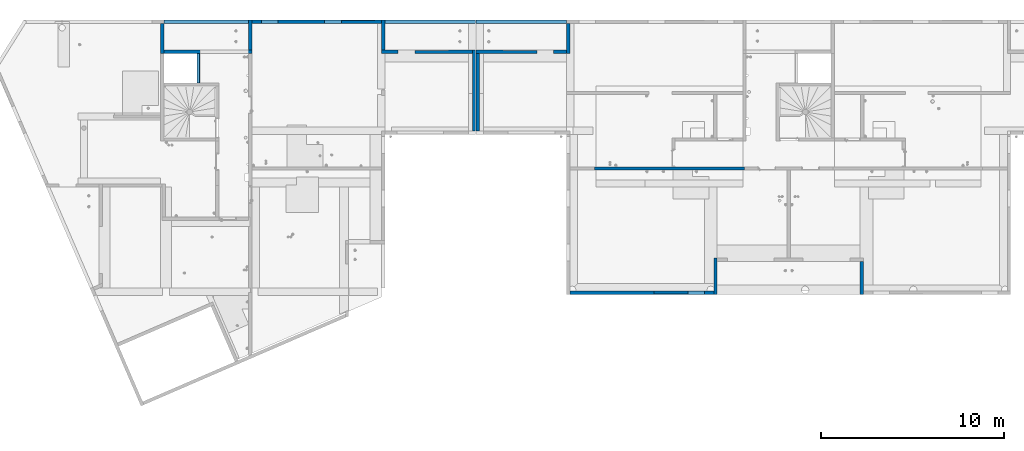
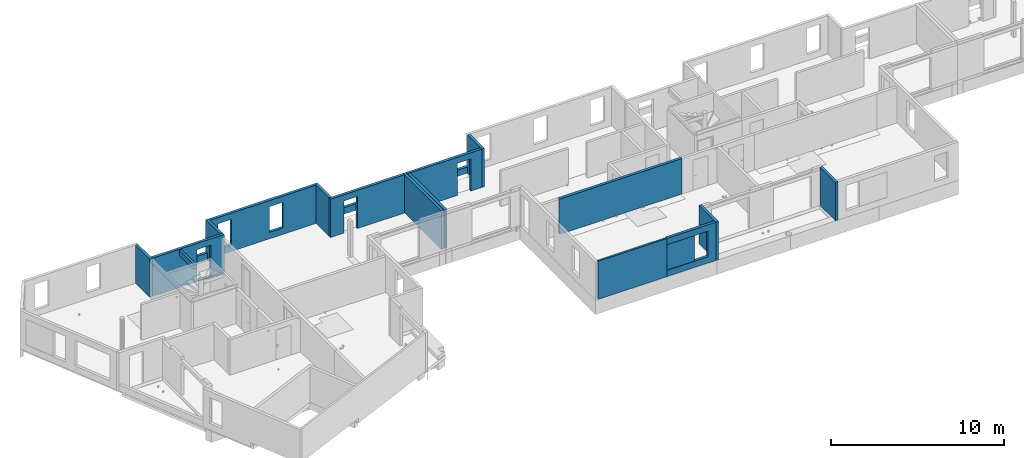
# One storey, part 7 of 34: 19 walls, 19 openings.
"""IFC2X3 building model written with IfcOpenShell, lengths in centimetres."""

from ifc_helpers import new_model, entity, si_unit, converted_unit, derived_unit, direction, frame, frame_2d, origin, origin_2d_with_axis, place, context, subcontext, project, spatial, polyline, rectangle, extrude, clip, bounded_halfspace, material, layer, layer_set, layer_usage, type_object, element, save


model = new_model("IFC2X3")

# Units and contexts
model_context = context("Model", 3, precision=0.001, world=origin(), true_north=direction((6.12303176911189e-17, 1.0)))
body_context = subcontext(model_context, "Body", "Model", "MODEL_VIEW")
ifc_project = project(units=[si_unit("LENGTHUNIT", "METRE", prefix="CENTI"), si_unit("AREAUNIT", "SQUARE_METRE"), si_unit("VOLUMEUNIT", "CUBIC_METRE"), converted_unit("PLANEANGLEUNIT", "DEGREE", entity("IfcRatioMeasure", 0.0174532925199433), si_unit("PLANEANGLEUNIT", "RADIAN"), dimensions=[0, 0, 0, 0, 0, 0, 0]), si_unit("MASSUNIT", "GRAM", prefix="KILO"), derived_unit("MASSDENSITYUNIT", [(si_unit("MASSUNIT", "GRAM", prefix="KILO"), 1), (si_unit("LENGTHUNIT", "METRE"), -3)]), si_unit("TIMEUNIT", "SECOND"), si_unit("FREQUENCYUNIT", "HERTZ"), si_unit("THERMODYNAMICTEMPERATUREUNIT", "DEGREE_CELSIUS"), derived_unit("THERMALTRANSMITTANCEUNIT", [(si_unit("MASSUNIT", "GRAM", prefix="KILO"), 1), (si_unit("THERMODYNAMICTEMPERATUREUNIT", "KELVIN"), -1), (si_unit("TIMEUNIT", "SECOND"), -3)]), derived_unit("VOLUMETRICFLOWRATEUNIT", [(si_unit("LENGTHUNIT", "METRE"), 3), (si_unit("TIMEUNIT", "SECOND"), -1)]), si_unit("ELECTRICCURRENTUNIT", "AMPERE"), si_unit("ELECTRICVOLTAGEUNIT", "VOLT"), si_unit("POWERUNIT", "WATT"), si_unit("FORCEUNIT", "NEWTON"), si_unit("ILLUMINANCEUNIT", "LUX"), si_unit("LUMINOUSFLUXUNIT", "LUMEN"), si_unit("LUMINOUSINTENSITYUNIT", "CANDELA"), derived_unit("USERDEFINED", [(si_unit("MASSUNIT", "GRAM", prefix="KILO"), -1), (si_unit("LENGTHUNIT", "METRE"), -2), (si_unit("TIMEUNIT", "SECOND"), 3), (si_unit("LUMINOUSFLUXUNIT", "LUMEN"), 1)]), derived_unit("LINEARVELOCITYUNIT", [(si_unit("LENGTHUNIT", "METRE"), 1), (si_unit("TIMEUNIT", "SECOND"), -1)]), si_unit("PRESSUREUNIT", "PASCAL"), derived_unit("USERDEFINED", [(si_unit("LENGTHUNIT", "METRE"), -2), (si_unit("MASSUNIT", "GRAM", prefix="KILO"), 1), (si_unit("TIMEUNIT", "SECOND"), -2)])], contexts=[model_context])

# Site, building, storey
site_placement = place(None, origin())
site = spatial("IfcSite", under=ifc_project, at=site_placement, Name="Default", CompositionType="ELEMENT")
building_placement = place(site_placement, origin())
building = spatial("IfcBuilding", under=site, at=building_placement, Name="CAGE 03", CompositionType="ELEMENT")
storey_placement = place(building_placement, frame((0.0, 0.0, 340.0)))
storey = spatial("IfcBuildingStorey", under=building, at=storey_placement, Name="R+1", CompositionType="ELEMENT", Elevation=340.0)

# Wall, opening
ifc_material_1 = material(Name="Béton, C25/30")
ifc_layer_1 = layer(ifc_material_1, 18.0)
ifc_layer_set_1 = layer_set([ifc_layer_1], Name="Mur de base:Voile BA 18")
ifc_layer_usage_1 = layer_usage(ifc_layer_set_1, "AXIS2", "NEGATIVE", 9.0)
wall_type_1 = type_object("IfcWallType", Name="Mur de base:Voile BA 18", PredefinedType="STANDARD", material=ifc_layer_set_1)
wall_1_placement = place(storey_placement, frame((5375.36582014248, 5284.66066607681, 0.0)))
wall_1 = element("IfcWallStandardCase", 1, at=wall_1_placement, inside=storey, type_object=wall_type_1, material=ifc_layer_usage_1, Name="Mur de base:Voile BA 18", ObjectType="Mur de base:Voile BA 18", context=body_context, shape_type="SweptSolid", body=[
    extrude(rectangle(XDim=494.999999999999, YDim=17.9999999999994, at=frame_2d((247.5, -1.86517468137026e-14), x_axis=(-1.0, 0.0))), origin(), (0.0, 0.0, 1.0), 45.0),
])
opening_1_placement = place(wall_1_placement, origin())
element("IfcOpeningElement", 2, at=opening_1_placement, cuts=wall_1, Name="Mur de base:Voile BA 18", ObjectType="Recess", context=body_context, shape_type="SweptSolid", body=[
    extrude(rectangle(XDim=181.0, YDim=218.0, at=frame_2d((0.0, -4.33431068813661e-13), x_axis=(1.0, 0.0))), frame((1139.0, 7.0, 135.5), z_axis=(0.0, 1.0, 0.0), x_axis=(0.0, 0.0, -1.0)), (0.0, 0.0, 1.0), 1.99999999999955),
])

# Wall
ifc_layer_usage_2 = layer_usage(ifc_layer_set_1, "AXIS2", "NEGATIVE", 9.0)
wall_2_placement = place(storey_placement, frame((3663.36582014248, 5275.66066607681, 0.0), z_axis=(0.0, 0.0, 1.0), x_axis=(0.0, -1.0, 0.0)))
element("IfcWallStandardCase", 3, at=wall_2_placement, inside=storey, type_object=wall_type_1, material=ifc_layer_usage_2, Name="Mur de base:Voile BA 18", ObjectType="Mur de base:Voile BA 18", context=body_context, shape_type="SweptSolid", body=[
    extrude(rectangle(XDim=165.0, YDim=18.0000000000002, at=frame_2d((82.4999999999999, 7.54951656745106e-14), x_axis=(-1.0, 0.0))), origin(), (0.0, 0.0, 1.0), 270.0),
])

# Wall, openings
ifc_layer_usage_3 = layer_usage(ifc_layer_set_1, "AXIS2", "NEGATIVE", 9.0)
wall_3_placement = place(storey_placement, frame((3672.36582014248, 5119.66066607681, 0.0)))
wall_3 = element("IfcWallStandardCase", 4, at=wall_3_placement, inside=storey, type_object=wall_type_1, material=ifc_layer_usage_3, Name="Mur de base:Voile BA 18", ObjectType="Mur de base:Voile BA 18", context=body_context, shape_type="SweptSolid", body=[
    extrude(rectangle(XDim=479.999999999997, YDim=17.9999999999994, at=frame_2d((239.999999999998, 1.87405646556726e-13), x_axis=(-1.0, 0.0))), origin(), (0.0, 0.0, 1.0), 270.0),
])
opening_2_placement = place(wall_3_placement, origin())
element("IfcOpeningElement", 5, at=opening_2_placement, cuts=wall_3, Name="Mur de base:Voile BA 18", ObjectType="Opening", context=body_context, shape_type="SweptSolid", body=[
    extrude(rectangle(XDim=227.0, YDim=17.9999999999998, at=frame_2d((2.16715534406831e-13, -4.9737991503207e-14), x_axis=(0.0, 1.0))), frame((189.0, -169.0, 113.5), z_axis=(0.0, 1.0, 0.0), x_axis=(1.0, 0.0, 0.0)), (0.0, 0.0, 1.0), 160.0),
])
opening_3_placement = place(wall_3_placement, frame((-3672.36582014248, -5119.66066607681, 0.0)))
element("IfcOpeningElement", 6, at=opening_3_placement, cuts=wall_3, Name="Mur de base:Voile BA 18", ObjectType="Opening", context=body_context, shape_type="SweptSolid", body=[
    extrude(rectangle(XDim=221.0, YDim=95.0000000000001, at=frame_2d((0.0, -4.33431068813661e-13), x_axis=(1.0, 0.0))), frame((4016.86582014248, 4958.26066607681, 115.5), z_axis=(0.0, 1.0, 0.0), x_axis=(0.0, 0.0, 1.0)), (0.0, 0.0, 1.0), 304.8),
])

# Walls
ifc_layer_usage_4 = layer_usage(ifc_layer_set_1, "AXIS2", "POSITIVE", -9.0)
wall_4_placement = place(storey_placement, frame((4143.36582014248, 5293.66066607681, 0.0), z_axis=(0.0, 0.0, 1.0), x_axis=(0.0, -1.0, 0.0)))
element("IfcWallStandardCase", 7, at=wall_4_placement, inside=storey, type_object=wall_type_1, material=ifc_layer_usage_4, Name="Mur de base:Voile BA 18", ObjectType="Mur de base:Voile BA 18", context=body_context, shape_type="SweptSolid", body=[
    extrude(rectangle(XDim=165.000000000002, YDim=17.9999999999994, at=frame_2d((82.5000000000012, -9.76996261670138e-15), x_axis=(-1.0, 0.0))), origin(), (0.0, 0.0, 1.0), 270.0),
])
ifc_layer_usage_5 = layer_usage(ifc_layer_set_1, "AXIS2", "POSITIVE", -9.0)
wall_5_placement = place(storey_placement, frame((6682.36582014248, 3796.6606660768, 0.0), z_axis=(0.0, 0.0, 1.0), x_axis=(0.0, 1.0, 0.0)))
element("IfcWallStandardCase", 8, at=wall_5_placement, inside=storey, type_object=wall_type_1, material=ifc_layer_usage_5, Name="Mur de base:Voile BA 18", ObjectType="Mur de base:Voile BA 18", context=body_context, shape_type="SweptSolid", body=[
    extrude(rectangle(XDim=197.999999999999, YDim=17.9999999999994, at=frame_2d((98.9999999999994, -1.57207580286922e-13), x_axis=(-1.0, 0.0))), origin(), (0.0, 0.0, 1.0), 270.0),
])
ifc_layer_usage_6 = layer_usage(ifc_layer_set_1, "AXIS2", "POSITIVE", -9.0)
wall_6_placement = place(storey_placement, frame((7480.36582014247, 3976.6606660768, 0.0), z_axis=(0.0, 0.0, 1.0), x_axis=(0.0, -1.0, 0.0)))
element("IfcWallStandardCase", 9, at=wall_6_placement, inside=storey, type_object=wall_type_1, material=ifc_layer_usage_6, Name="Mur de base:Voile BA 18", ObjectType="Mur de base:Voile BA 18", context=body_context, shape_type="SweptSolid", body=[
    extrude(rectangle(XDim=179.999999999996, YDim=17.9999999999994, at=frame_2d((89.9999999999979, -7.19424519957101e-14), x_axis=(-1.0, 0.0))), origin(), (0.0, 0.0, 1.0), 270.0),
])
ifc_layer_usage_7 = layer_usage(ifc_layer_set_1, "AXIS2", "POSITIVE", -9.0)
wall_7_placement = place(storey_placement, frame((5879.36582014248, 5275.6606660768, 0.0), z_axis=(0.0, 0.0, 1.0), x_axis=(0.0, -1.0, 0.0)))
element("IfcWallStandardCase", 10, at=wall_7_placement, inside=storey, type_object=wall_type_1, material=ifc_layer_usage_7, Name="Mur de base:Voile BA 18", ObjectType="Mur de base:Voile BA 18", context=body_context, shape_type="SweptSolid", body=[
    extrude(rectangle(XDim=164.999999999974, YDim=17.9999999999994, at=frame_2d((82.4999999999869, -1.08357767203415e-13), x_axis=(-1.0, 0.0))), origin(), (0.0, 0.0, 1.0), 270.0),
])

# Wall, openings
ifc_layer_usage_8 = layer_usage(ifc_layer_set_1, "AXIS2", "POSITIVE", -9.0)
wall_8_placement = place(storey_placement, frame((5870.36582014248, 5119.66066607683, 0.0), z_axis=(0.0, 0.0, 1.0), x_axis=(-1.0, 0.0, 0.0)))
wall_8 = element("IfcWallStandardCase", 11, at=wall_8_placement, inside=storey, type_object=wall_type_1, material=ifc_layer_usage_8, Name="Mur de base:Voile BA 18", ObjectType="Mur de base:Voile BA 18", context=body_context, shape_type="SweptSolid", body=[
    extrude(rectangle(XDim=494.999999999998, YDim=17.9999999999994, at=frame_2d((247.499999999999, -7.01660951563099e-14), x_axis=(-1.0, 0.0))), origin(), (0.0, 0.0, 1.0), 270.0),
])
opening_4_placement = place(wall_8_placement, origin())
element("IfcOpeningElement", 12, at=opening_4_placement, cuts=wall_8, Name="Mur de base:Voile BA 18", ObjectType="Recess", context=body_context, shape_type="SweptSolid", body=[
    extrude(rectangle(XDim=226.0, YDim=184.0, at=frame_2d((0.0, -4.9737991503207e-14), x_axis=(0.0, 1.0))), frame((255.0, -9.0, 113.0), z_axis=(0.0, 1.0, 0.0), x_axis=(1.0, 0.0, 0.0)), (0.0, 0.0, 1.0), 1.99999999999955),
])
opening_5_placement = place(wall_8_placement, frame((5870.36582014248, 5119.66066607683, 0.0), z_axis=(0.0, 0.0, 1.0), x_axis=(-1.0, 0.0, 0.0)))
element("IfcOpeningElement", 13, at=opening_5_placement, cuts=wall_8, Name="Mur de base:Voile BA 18", ObjectType="Opening", context=body_context, shape_type="SweptSolid", body=[
    extrude(rectangle(XDim=226.0, YDim=91.0000000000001, at=frame_2d((0.0, 0.0), x_axis=(0.0, 1.0))), frame((5752.86582014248, 5263.06066607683, 113.0), z_axis=(0.0, -1.0, 0.0), x_axis=(1.0, 0.0, 0.0)), (0.0, 0.0, 1.0), 304.8),
])

# Wall
ifc_layer_usage_9 = layer_usage(ifc_layer_set_1, "AXIS2", "POSITIVE", -9.0)
wall_9_placement = place(storey_placement, frame((4869.36582014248, 5128.66066607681, 0.0), z_axis=(0.0, 0.0, 1.0), x_axis=(0.0, 1.0, 0.0)))
element("IfcWallStandardCase", 14, at=wall_9_placement, inside=storey, type_object=wall_type_1, material=ifc_layer_usage_9, Name="Mur de base:Voile BA 18", ObjectType="Mur de base:Voile BA 18", context=body_context, shape_type="SweptSolid", body=[
    extrude(rectangle(XDim=165.000000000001, YDim=17.9999999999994, at=frame_2d((82.5000000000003, -1.07469588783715e-13), x_axis=(-1.0, 0.0))), origin(), (0.0, 0.0, 1.0), 270.0),
])

# Wall, openings
ifc_layer_usage_10 = layer_usage(ifc_layer_set_1, "AXIS2", "POSITIVE", -9.0)
wall_10_placement = place(storey_placement, frame((4860.36582014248, 5284.66066607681, 0.0), z_axis=(0.0, 0.0, 1.0), x_axis=(-1.0, 0.0, 0.0)))
wall_10 = element("IfcWallStandardCase", 15, at=wall_10_placement, inside=storey, type_object=wall_type_1, material=ifc_layer_usage_10, Name="Mur de base:Voile BA 18", ObjectType="Mur de base:Voile BA 18", context=body_context, shape_type="SweptSolid", body=[
    extrude(rectangle(XDim=708.000000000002, YDim=17.9999999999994, at=frame_2d((354.000000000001, -2.43360886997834e-13), x_axis=(-1.0, 0.0))), origin(), (0.0, 0.0, 1.0), 270.0),
])
opening_6_placement = place(wall_10_placement, origin())
element("IfcOpeningElement", 16, at=opening_6_placement, cuts=wall_10, Name="Mur de base:Voile BA 18", ObjectType="Recess", context=body_context, shape_type="SweptSolid", body=[
    extrude(rectangle(XDim=181.0, YDim=184.0, at=frame_2d((0.0, 5.6843418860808e-14), x_axis=(0.0, 1.0))), frame((128.0, -9.0, 135.499999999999), z_axis=(0.0, 1.0, 0.0), x_axis=(1.0, 0.0, 0.0)), (0.0, 0.0, 1.0), 1.99999999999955),
])
opening_7_placement = place(wall_10_placement, frame((4860.36582014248, 5284.66066607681, 0.0), z_axis=(0.0, 0.0, 1.0), x_axis=(-1.0, 0.0, 0.0)))
element("IfcOpeningElement", 17, at=opening_7_placement, cuts=wall_10, Name="Mur de base:Voile BA 18", ObjectType="Opening", context=body_context, shape_type="SweptSolid", body=[
    extrude(rectangle(XDim=181.0, YDim=91.0000000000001, at=frame_2d((0.0, 0.0), x_axis=(0.0, 1.0))), frame((4594.86582014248, 5428.06066607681, 135.5), z_axis=(0.0, -1.0, 0.0), x_axis=(1.0, 0.0, 0.0)), (0.0, 0.0, 1.0), 304.8),
])
opening_8_placement = place(wall_10_placement, frame((4860.36582014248, 5284.66066607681, 0.0), z_axis=(0.0, 0.0, 1.0), x_axis=(-1.0, 0.0, 0.0)))
element("IfcOpeningElement", 18, at=opening_8_placement, cuts=wall_10, Name="Mur de base:Voile BA 18", ObjectType="Opening", context=body_context, shape_type="SweptSolid", body=[
    extrude(rectangle(XDim=181.0, YDim=91.0000000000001, at=frame_2d((0.0, 0.0), x_axis=(0.0, 1.0))), frame((4249.86582014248, 5428.06066607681, 135.5), z_axis=(0.0, -1.0, 0.0), x_axis=(1.0, 0.0, 0.0)), (0.0, 0.0, 1.0), 304.8),
])

# Walls
ifc_layer_usage_11 = layer_usage(ifc_layer_set_1, "AXIS2", "NEGATIVE", 9.0)
wall_11_placement = place(storey_placement, frame((5364.36582014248, 5128.66066607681, 0.0), z_axis=(0.0, 0.0, 1.0), x_axis=(0.0, -1.0, 0.0)))
element("IfcWallStandardCase", 19, at=wall_11_placement, inside=storey, type_object=wall_type_1, material=ifc_layer_usage_11, Name="Mur de base:Voile BA 18", ObjectType="Mur de base:Voile BA 18", context=body_context, shape_type="SweptSolid", body=[
    extrude(rectangle(XDim=442.000000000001, YDim=17.9999999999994, at=frame_2d((221.0, -9.41469124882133e-14), x_axis=(-1.0, 0.0))), origin(), (0.0, 0.0, 1.0), 270.0),
])
ifc_layer_usage_12 = layer_usage(ifc_layer_set_1, "AXIS2", "NEGATIVE", 9.0)
wall_12_placement = place(storey_placement, frame((5384.36582014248, 4686.66066607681, 0.0), z_axis=(0.0, 0.0, 1.0), x_axis=(0.0, 1.0, 0.0)))
element("IfcWallStandardCase", 20, at=wall_12_placement, inside=storey, type_object=wall_type_1, material=ifc_layer_usage_12, Name="Mur de base:Voile BA 18", ObjectType="Mur de base:Voile BA 18", context=body_context, shape_type="SweptSolid", body=[
    extrude(rectangle(XDim=424.000000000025, YDim=17.9999999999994, at=frame_2d((212.000000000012, -1.07469588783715e-13), x_axis=(-1.0, 0.0))), origin(), (0.0, 0.0, 1.0), 270.0),
])

# Wall, opening
ifc_layer_usage_13 = layer_usage(ifc_layer_set_1, "AXIS2", "POSITIVE", -9.0)
wall_13_placement = place(storey_placement, frame((3861.36582014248, 5110.66066607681, 227.0), z_axis=(0.0, 0.0, 1.0), x_axis=(0.0, -1.0, 0.0)))
wall_13 = element("IfcWallStandardCase", 21, at=wall_13_placement, inside=storey, type_object=wall_type_1, material=ifc_layer_usage_13, Name="Mur de base:Voile BA 18", ObjectType="Mur de base:Voile BA 18", context=body_context, shape_type="Clipping", body=[
    clip(clip(extrude(rectangle(XDim=159.999999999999, YDim=18.0000000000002, at=frame_2d((79.9999999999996, -8.08242361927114e-14), x_axis=(-1.0, 0.0))), origin(), (0.0, 0.0, 1.0), 36.0), bounded_halfspace(frame((0.0, 6.0, 23.0), z_axis=(0.0, 0.0, -1.0), x_axis=(1.0, 0.0, 0.0)), True, frame((0.0, 6.0, 23.0), z_axis=(0.0, 0.0, -1.0), x_axis=(1.0, 0.0, 0.0)), polyline([(0.0, 0.0), (0.0, -3.0), (160.0, -3.0), (160.0, 0.0), (0.0, 0.0)]))), bounded_halfspace(frame((160.0, 6.0, 23.0), z_axis=(0.0, -1.0, 0.0), x_axis=(0.0, 0.0, 1.0)), True, frame((160.0, 6.0, 23.0), z_axis=(0.0, -1.0, 0.0), x_axis=(0.0, 0.0, 1.0)), polyline([(0.0, 0.0), (13.0, 0.0), (13.0, 160.0), (0.0, 160.0), (0.0, 0.0)]))),
])
opening_9_placement = place(wall_13_placement, frame((5110.66066607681, -3861.36582014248, -227.0), z_axis=(0.0, 0.0, 1.0), x_axis=(0.0, 1.0, 0.0)))
element("IfcOpeningElement", 22, at=opening_9_placement, cuts=wall_13, Name="Mur de base:Voile BA 18", ObjectType="Opening", context=body_context, shape_type="SweptSolid", body=[
    extrude(rectangle(XDim=227.0, YDim=160.0, at=frame_2d((0.0, 0.0), x_axis=(0.0, 1.0))), frame((3717.96582014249, 5030.66066607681, 113.5), z_axis=(1.0, 0.0, 0.0), x_axis=(0.0, 1.0, 0.0)), (0.0, 0.0, 1.0), 304.8),
])

# Wall, openings
ifc_layer_usage_14 = layer_usage(ifc_layer_set_1, "AXIS2", "POSITIVE", -9.0)
wall_14_placement = place(storey_placement, frame((5355.36582014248, 5119.66066607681, 0.0), z_axis=(0.0, 0.0, 1.0), x_axis=(-1.0, 0.0, 0.0)))
wall_14 = element("IfcWallStandardCase", 23, at=wall_14_placement, inside=storey, type_object=wall_type_1, material=ifc_layer_usage_14, Name="Mur de base:Voile BA 18", ObjectType="Mur de base:Voile BA 18", context=body_context, shape_type="SweptSolid", body=[
    extrude(rectangle(XDim=494.999999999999, YDim=17.9999999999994, at=frame_2d((247.5, -3.01980662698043e-14), x_axis=(-1.0, 0.0))), origin(), (0.0, 0.0, 1.0), 270.0),
])
opening_10_placement = place(wall_14_placement, origin())
element("IfcOpeningElement", 24, at=opening_10_placement, cuts=wall_14, Name="Mur de base:Voile BA 18", ObjectType="Recess", context=body_context, shape_type="SweptSolid", body=[
    extrude(rectangle(XDim=226.0, YDim=184.0, at=frame_2d((0.0, -4.9737991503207e-14), x_axis=(0.0, 1.0))), frame((222.0, -9.0, 113.0), z_axis=(0.0, 1.0, 0.0), x_axis=(1.0, 0.0, 0.0)), (0.0, 0.0, 1.0), 1.99999999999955),
])
opening_11_placement = place(wall_14_placement, frame((5355.36582014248, 5119.66066607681, 0.0), z_axis=(0.0, 0.0, 1.0), x_axis=(-1.0, 0.0, 0.0)))
element("IfcOpeningElement", 25, at=opening_11_placement, cuts=wall_14, Name="Mur de base:Voile BA 18", ObjectType="Opening", context=body_context, shape_type="SweptSolid", body=[
    extrude(rectangle(XDim=226.0, YDim=91.0000000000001, at=frame_2d((0.0, 0.0), x_axis=(0.0, 1.0))), frame((4995.86582014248, 5263.06066607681, 113.0), z_axis=(0.0, -1.0, 0.0), x_axis=(1.0, 0.0, 0.0)), (0.0, 0.0, 1.0), 304.8),
])

# Wall, opening
ifc_layer_usage_15 = layer_usage(ifc_layer_set_1, "AXIS2", "NEGATIVE", 9.0)
wall_15_placement = place(storey_placement, frame((4878.36582014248, 5284.66066607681, 0.0)))
wall_15 = element("IfcWallStandardCase", 26, at=wall_15_placement, inside=storey, type_object=wall_type_1, material=ifc_layer_usage_15, Name="Mur de base:Voile BA 18", ObjectType="Mur de base:Voile BA 18", context=body_context, shape_type="SweptSolid", body=[
    extrude(rectangle(XDim=494.999999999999, YDim=17.9999999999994, at=frame_2d((247.5, -1.95399252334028e-14), x_axis=(-1.0, 0.0))), origin(), (0.0, 0.0, 1.0), 45.0),
])
opening_12_placement = place(wall_15_placement, origin())
element("IfcOpeningElement", 27, at=opening_12_placement, cuts=wall_15, Name="Mur de base:Voile BA 18", ObjectType="Recess", context=body_context, shape_type="SweptSolid", body=[
    extrude(rectangle(XDim=181.0, YDim=184.0, at=origin_2d_with_axis()), frame((-146.0, 7.0, 135.499999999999), z_axis=(0.0, 1.0, 0.0), x_axis=(0.0, 0.0, -1.0)), (0.0, 0.0, 1.0), 1.99999999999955),
])

# Wall, openings
ifc_layer_usage_16 = layer_usage(ifc_layer_set_1, "AXIS2", "POSITIVE", -9.0)
wall_16_placement = place(storey_placement, frame((4134.36582014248, 5284.66066607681, 0.0), z_axis=(0.0, 0.0, 1.0), x_axis=(-1.0, 0.0, 0.0)))
wall_16 = element("IfcWallStandardCase", 28, at=wall_16_placement, inside=storey, type_object=wall_type_1, material=ifc_layer_usage_16, Name="Mur de base:Voile BA 18", ObjectType="Mur de base:Voile BA 18", context=body_context, shape_type="SweptSolid", body=[
    extrude(rectangle(XDim=461.999999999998, YDim=17.9999999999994, at=frame_2d((230.999999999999, -4.70734562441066e-14), x_axis=(-1.0, 0.0))), origin(), (0.0, 0.0, 1.0), 45.0),
])
opening_13_placement = place(wall_16_placement, origin())
element("IfcOpeningElement", 29, at=opening_13_placement, cuts=wall_16, Name="Mur de base:Voile BA 18", ObjectType="Recess", context=body_context, shape_type="SweptSolid", body=[
    extrude(rectangle(XDim=181.0, YDim=184.0, at=frame_2d((0.0, 0.0), x_axis=(0.0, 1.0))), frame((965.0, -9.0, 135.499999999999), z_axis=(0.0, 1.0, 0.0), x_axis=(1.0, 0.0, 0.0)), (0.0, 0.0, 1.0), 1.99999999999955),
])
opening_14_placement = place(wall_16_placement, origin())
element("IfcOpeningElement", 30, at=opening_14_placement, cuts=wall_16, Name="Mur de base:Voile BA 18", ObjectType="Recess", context=body_context, shape_type="SweptSolid", body=[
    extrude(rectangle(XDim=181.0, YDim=184.0, at=frame_2d((0.0, 0.0), x_axis=(0.0, 1.0))), frame((620.0, -9.0, 135.5), z_axis=(0.0, 1.0, 0.0), x_axis=(1.0, 0.0, 0.0)), (0.0, 0.0, 1.0), 1.99999999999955),
])

# Wall, opening
ifc_layer_usage_17 = layer_usage(ifc_layer_set_1, "AXIS2", "NEGATIVE", 9.0)
wall_17_placement = place(storey_placement, frame((6022.36582014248, 4483.6606660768, 0.0)))
wall_17 = element("IfcWallStandardCase", 31, at=wall_17_placement, inside=storey, type_object=wall_type_1, material=ifc_layer_usage_17, Name="Mur de base:Voile BA 18", ObjectType="Mur de base:Voile BA 18", context=body_context, shape_type="SweptSolid", body=[
    extrude(rectangle(XDim=818.0, YDim=17.9999999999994, at=frame_2d((409.0, -3.95239396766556e-13), x_axis=(-1.0, 0.0))), origin(), (0.0, 0.0, 1.0), 250.0),
])
opening_15_placement = place(wall_17_placement, origin())
element("IfcOpeningElement", 32, at=opening_15_placement, cuts=wall_17, Name="Mur de base:Voile BA 18", ObjectType="Opening", context=body_context, shape_type="SweptSolid", body=[
    extrude(rectangle(XDim=210.000000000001, YDim=18.0000000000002, at=frame_2d((4.33431068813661e-13, -5.6843418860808e-14), x_axis=(0.0, 1.0))), frame((431.0, 9.0, 105.0), z_axis=(0.0, 1.0, 0.0), x_axis=(1.0, 0.0, 0.0)), (0.0, 0.0, 1.0), 96.9999999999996),
])

# Wall, openings
ifc_layer_usage_18 = layer_usage(ifc_layer_set_1, "AXIS2", "POSITIVE", -9.0)
wall_18_placement = place(storey_placement, frame((6347.36582014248, 3805.6606660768, 0.0)))
wall_18 = element("IfcWallStandardCase", 33, at=wall_18_placement, inside=storey, type_object=wall_type_1, material=ifc_layer_usage_18, Name="Mur de base:Voile BA 18", ObjectType="Mur de base:Voile BA 18", context=body_context, shape_type="SweptSolid", body=[
    extrude(rectangle(XDim=326.0, YDim=18.0000000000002, at=frame_2d((163.0, -1.33226762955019e-13), x_axis=(-1.0, 0.0))), origin(), (0.0, 0.0, 1.0), 270.0),
])
opening_16_placement = place(wall_18_placement, origin())
element("IfcOpeningElement", 34, at=opening_16_placement, cuts=wall_18, Name="Mur de base:Voile BA 18", ObjectType="Recess", context=body_context, shape_type="SweptSolid", body=[
    extrude(rectangle(XDim=181.0, YDim=184.0, at=origin_2d_with_axis()), frame((92.0, -9.0, 135.5), z_axis=(0.0, 1.0, 0.0), x_axis=(0.0, 0.0, -1.0)), (0.0, 0.0, 1.0), 1.99999999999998),
])
opening_17_placement = place(wall_18_placement, origin())
element("IfcOpeningElement", 35, at=opening_17_placement, cuts=wall_18, Name="Mur de base:Voile BA 18", ObjectType="Recess", context=body_context, shape_type="SweptSolid", body=[
    extrude(rectangle(XDim=181.0, YDim=184.0, at=origin_2d_with_axis()), frame((1376.0, -9.0, 135.5), z_axis=(0.0, 1.0, 0.0), x_axis=(0.0, 0.0, -1.0)), (0.0, 0.0, 1.0), 1.99999999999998),
])
opening_18_placement = place(wall_18_placement, frame((-6347.36582014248, -3805.6606660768, 0.0)))
element("IfcOpeningElement", 36, at=opening_18_placement, cuts=wall_18, Name="Mur de base:Voile BA 18", ObjectType="Opening", context=body_context, shape_type="SweptSolid", body=[
    extrude(rectangle(XDim=181.0, YDim=91.0000000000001, at=frame_2d((0.0, 0.0), x_axis=(0.0, 1.0))), frame((6576.86582014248, 3644.2606660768, 135.5), z_axis=(0.0, 1.0, 0.0), x_axis=(-1.0, 0.0, 0.0)), (0.0, 0.0, 1.0), 304.8),
])

# Wall, opening
ifc_material_2 = material(Name="Béton, panneaux préfa 30/37")
ifc_layer_2 = layer(ifc_material_2, 5.5)
ifc_layer_3 = layer(ifc_material_1, 7.0)
ifc_layer_4 = layer(ifc_material_2, 5.5)
ifc_layer_set_2 = layer_set([ifc_layer_2, ifc_layer_3, ifc_layer_4], Name="Mur de base:premur 18")
ifc_layer_usage_19 = layer_usage(ifc_layer_set_2, "AXIS2", "POSITIVE", -9.0)
wall_type_2 = type_object("IfcWallType", Name="Mur de base:premur 18", PredefinedType="NOTDEFINED")
wall_19_placement = place(storey_placement, frame((5888.36582014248, 3805.66066607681, 0.0)))
wall_19 = element("IfcWallStandardCase", 37, at=wall_19_placement, inside=storey, type_object=wall_type_2, material=ifc_layer_usage_19, Name="Mur de base:premur 18", ObjectType="Mur de base:premur 18", context=body_context, shape_type="Clipping", body=[
    clip(clip(extrude(rectangle(XDim=459.000000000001, YDim=18.0000000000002, at=frame_2d((229.500000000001, 7.72715225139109e-14), x_axis=(-1.0, 0.0))), origin(), (0.0, 0.0, 1.0), 270.0), bounded_halfspace(frame((0.0, 3.50000000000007, 250.0), z_axis=(0.0, 0.0, -1.0), x_axis=(-1.0, 0.0, 0.0)), True, frame((0.0, 3.50000000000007, 250.0), z_axis=(0.0, 0.0, -1.0), x_axis=(-1.0, 0.0, 0.0)), polyline([(0.0, 0.0), (0.0, 5.50000000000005), (-459.0, 5.49999999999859), (-459.0, 0.0), (0.0, 0.0)]))), bounded_halfspace(frame((459.0, 3.50000000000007, 250.0), z_axis=(0.0, -1.0, 0.0), x_axis=(0.0, 0.0, 1.0)), True, frame((459.0, 3.50000000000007, 250.0), z_axis=(0.0, -1.0, 0.0), x_axis=(0.0, 0.0, 1.0)), polyline([(0.0, 0.0), (20.0, 0.0), (20.0, 459.0), (0.0, 459.0), (0.0, 0.0)]))),
])
opening_19_placement = place(wall_19_placement, origin())
element("IfcOpeningElement", 38, at=opening_19_placement, cuts=wall_19, Name="Mur de base:premur 18", ObjectType="Recess", context=body_context, shape_type="SweptSolid", body=[
    extrude(rectangle(XDim=181.0, YDim=184.0, at=origin_2d_with_axis()), frame((551.0, -9.0, 135.5), z_axis=(0.0, 1.0, 0.0), x_axis=(0.0, 0.0, -1.0)), (0.0, 0.0, 1.0), 1.99999999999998),
])

save(model, "model.ifc")
